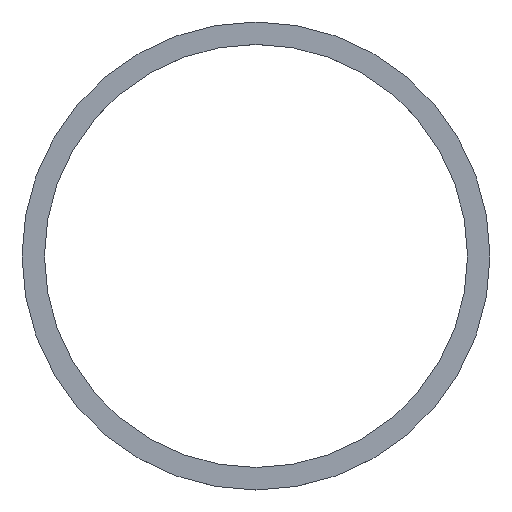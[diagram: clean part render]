
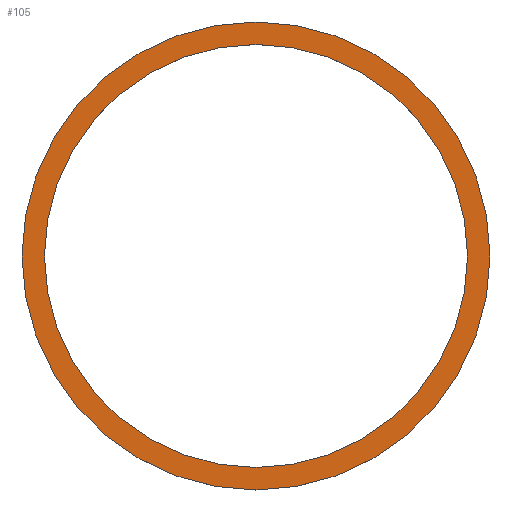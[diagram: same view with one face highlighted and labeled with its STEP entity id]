
A CAD part, top view. The second image highlights one B-rep face of the part: STEP entity #105.
In plain terms, the highlighted planar face has unit normal (0, 0, 1).
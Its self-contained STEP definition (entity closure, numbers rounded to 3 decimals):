
#21 = EDGE_CURVE('',#22,#22,#24,.T.);
#22 = VERTEX_POINT('',#23);
#23 = CARTESIAN_POINT('',(19.8,42.,-2.2));
#24 = SURFACE_CURVE('',#25,(#30,#42),.PCURVE_S1.);
#25 = CIRCLE('',#26,19.8);
#26 = AXIS2_PLACEMENT_3D('',#27,#28,#29);
#27 = CARTESIAN_POINT('',(0.,42.,-2.2));
#28 = DIRECTION('',(0.,0.,1.));
#29 = DIRECTION('',(1.,0.,-0.));
#30 = PCURVE('',#31,#36);
#31 = CYLINDRICAL_SURFACE('',#32,19.8);
#32 = AXIS2_PLACEMENT_3D('',#33,#34,#35);
#33 = CARTESIAN_POINT('',(0.,42.,-2.8));
#34 = DIRECTION('',(0.,0.,1.));
#35 = DIRECTION('',(1.,0.,-0.));
#36 = DEFINITIONAL_REPRESENTATION('',(#37),#41);
#37 = LINE('',#38,#39);
#38 = CARTESIAN_POINT('',(0.,0.6));
#39 = VECTOR('',#40,1.);
#40 = DIRECTION('',(1.,0.));
#41 = ( GEOMETRIC_REPRESENTATION_CONTEXT(2) 
PARAMETRIC_REPRESENTATION_CONTEXT() REPRESENTATION_CONTEXT('2D SPACE',''
  ) );
#42 = PCURVE('',#43,#48);
#43 = PLANE('',#44);
#44 = AXIS2_PLACEMENT_3D('',#45,#46,#47);
#45 = CARTESIAN_POINT('',(0.,42.,-2.2));
#46 = DIRECTION('',(0.,0.,1.));
#47 = DIRECTION('',(1.,0.,-0.));
#48 = DEFINITIONAL_REPRESENTATION('',(#49),#53);
#49 = CIRCLE('',#50,19.8);
#50 = AXIS2_PLACEMENT_2D('',#51,#52);
#51 = CARTESIAN_POINT('',(0.,0.));
#52 = DIRECTION('',(1.,0.));
#53 = ( GEOMETRIC_REPRESENTATION_CONTEXT(2) 
PARAMETRIC_REPRESENTATION_CONTEXT() REPRESENTATION_CONTEXT('2D SPACE',''
  ) );
#105 = ADVANCED_FACE('',(#106,#109),#43,.T.);
#106 = FACE_BOUND('',#107,.T.);
#107 = EDGE_LOOP('',(#108));
#108 = ORIENTED_EDGE('',*,*,#21,.T.);
#109 = FACE_BOUND('',#110,.T.);
#110 = EDGE_LOOP('',(#111));
#111 = ORIENTED_EDGE('',*,*,#112,.F.);
#112 = EDGE_CURVE('',#113,#113,#115,.T.);
#113 = VERTEX_POINT('',#114);
#114 = CARTESIAN_POINT('',(17.9,42.,-2.2));
#115 = SURFACE_CURVE('',#116,(#121,#128),.PCURVE_S1.);
#116 = CIRCLE('',#117,17.9);
#117 = AXIS2_PLACEMENT_3D('',#118,#119,#120);
#118 = CARTESIAN_POINT('',(0.,42.,-2.2));
#119 = DIRECTION('',(0.,0.,1.));
#120 = DIRECTION('',(1.,0.,-0.));
#121 = PCURVE('',#43,#122);
#122 = DEFINITIONAL_REPRESENTATION('',(#123),#127);
#123 = CIRCLE('',#124,17.9);
#124 = AXIS2_PLACEMENT_2D('',#125,#126);
#125 = CARTESIAN_POINT('',(0.,0.));
#126 = DIRECTION('',(1.,0.));
#127 = ( GEOMETRIC_REPRESENTATION_CONTEXT(2) 
PARAMETRIC_REPRESENTATION_CONTEXT() REPRESENTATION_CONTEXT('2D SPACE',''
  ) );
#128 = PCURVE('',#129,#134);
#129 = CYLINDRICAL_SURFACE('',#130,17.9);
#130 = AXIS2_PLACEMENT_3D('',#131,#132,#133);
#131 = CARTESIAN_POINT('',(0.,42.,-2.9));
#132 = DIRECTION('',(0.,0.,1.));
#133 = DIRECTION('',(1.,0.,-0.));
#134 = DEFINITIONAL_REPRESENTATION('',(#135),#139);
#135 = LINE('',#136,#137);
#136 = CARTESIAN_POINT('',(0.,0.7));
#137 = VECTOR('',#138,1.);
#138 = DIRECTION('',(1.,0.));
#139 = ( GEOMETRIC_REPRESENTATION_CONTEXT(2) 
PARAMETRIC_REPRESENTATION_CONTEXT() REPRESENTATION_CONTEXT('2D SPACE',''
  ) );
